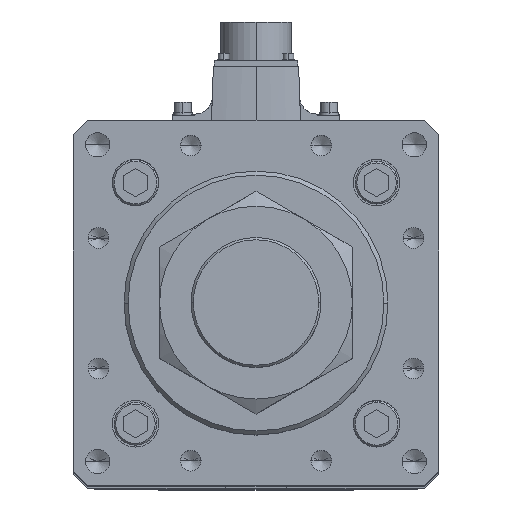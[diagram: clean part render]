
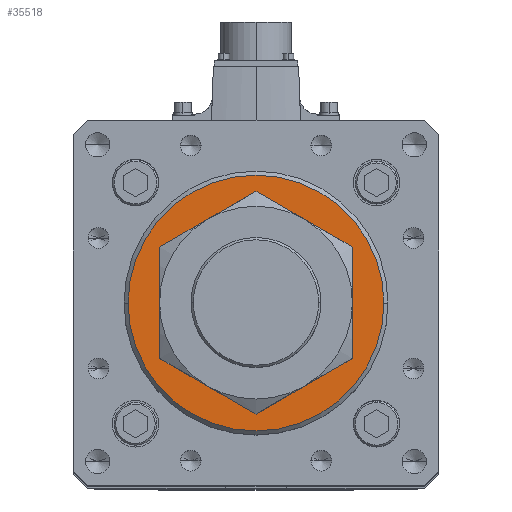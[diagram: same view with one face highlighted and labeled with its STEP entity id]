
A CAD part, top view. The second image highlights one B-rep face of the part: STEP entity #35518.
In plain terms, the highlighted planar face has unit normal (0, 0, 1).
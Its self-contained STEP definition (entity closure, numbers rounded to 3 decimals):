
#537 = DIRECTION ( 'NONE',  ( 0., 0., 1. ) ) ;
#3982 = CARTESIAN_POINT ( 'NONE',  ( 0., 0., 762. ) ) ;
#5036 = EDGE_CURVE ( 'NONE', #20515, #51328, #20830, .T. ) ;
#5186 = EDGE_CURVE ( 'NONE', #51328, #20515, #34851, .T. ) ;
#5528 = DIRECTION ( 'NONE',  ( 0., 0., 1. ) ) ;
#5566 = EDGE_CURVE ( 'NONE', #53302, #41417, #52190, .T. ) ;
#5910 = CARTESIAN_POINT ( 'NONE',  ( 63., 0., 762. ) ) ;
#11568 = CARTESIAN_POINT ( 'NONE',  ( -63., 0., 762. ) ) ;
#15752 = PLANE ( 'NONE',  #15889 ) ;
#15865 = ORIENTED_EDGE ( 'NONE', *, *, #37825, .T. ) ;
#15889 = AXIS2_PLACEMENT_3D ( 'NONE', #16118, #37350, #45777 ) ;
#16118 = CARTESIAN_POINT ( 'NONE',  ( 0., 0., 762. ) ) ;
#18684 = ORIENTED_EDGE ( 'NONE', *, *, #5186, .T. ) ;
#20515 = VERTEX_POINT ( 'NONE', #24357 ) ;
#20830 = CIRCLE ( 'NONE', #50865, 40.5 ) ;
#21235 = AXIS2_PLACEMENT_3D ( 'NONE', #44452, #48719, #53392 ) ;
#22608 = FACE_BOUND ( 'NONE', #41521, .T. ) ;
#23564 = CARTESIAN_POINT ( 'NONE',  ( 40.5, 0., 762. ) ) ;
#23663 = CIRCLE ( 'NONE', #32019, 63. ) ;
#24357 = CARTESIAN_POINT ( 'NONE',  ( -40.5, 0., 762. ) ) ;
#26098 = CARTESIAN_POINT ( 'NONE',  ( 0., 0., 762. ) ) ;
#27887 = ORIENTED_EDGE ( 'NONE', *, *, #5036, .T. ) ;
#32019 = AXIS2_PLACEMENT_3D ( 'NONE', #39323, #5528, #39691 ) ;
#34487 = ORIENTED_EDGE ( 'NONE', *, *, #5566, .T. ) ;
#34851 = CIRCLE ( 'NONE', #21235, 40.5 ) ;
#35518 = ADVANCED_FACE ( 'NONE', ( #22608, #46619 ), #15752, .T. ) ;
#37350 = DIRECTION ( 'NONE',  ( 0., 0., 1. ) ) ;
#37825 = EDGE_CURVE ( 'NONE', #41417, #53302, #23663, .T. ) ;
#39323 = CARTESIAN_POINT ( 'NONE',  ( 0., 0., 762. ) ) ;
#39691 = DIRECTION ( 'NONE',  ( 1., 0., 0. ) ) ;
#41417 = VERTEX_POINT ( 'NONE', #5910 ) ;
#41521 = EDGE_LOOP ( 'NONE', ( #18684, #27887 ) ) ;
#44452 = CARTESIAN_POINT ( 'NONE',  ( 0., 0., 762. ) ) ;
#45777 = DIRECTION ( 'NONE',  ( 1., 0., 0. ) ) ;
#46619 = FACE_OUTER_BOUND ( 'NONE', #50802, .T. ) ;
#48433 = DIRECTION ( 'NONE',  ( 1., 0., 0. ) ) ;
#48719 = DIRECTION ( 'NONE',  ( 0., 0., -1. ) ) ;
#50440 = DIRECTION ( 'NONE',  ( 0., 0., -1. ) ) ;
#50802 = EDGE_LOOP ( 'NONE', ( #34487, #15865 ) ) ;
#50810 = DIRECTION ( 'NONE',  ( 1., 0., 0. ) ) ;
#50865 = AXIS2_PLACEMENT_3D ( 'NONE', #3982, #50440, #50810 ) ;
#51328 = VERTEX_POINT ( 'NONE', #23564 ) ;
#51613 = AXIS2_PLACEMENT_3D ( 'NONE', #26098, #537, #48433 ) ;
#52190 = CIRCLE ( 'NONE', #51613, 63. ) ;
#53302 = VERTEX_POINT ( 'NONE', #11568 ) ;
#53392 = DIRECTION ( 'NONE',  ( 1., 0., 0. ) ) ;
